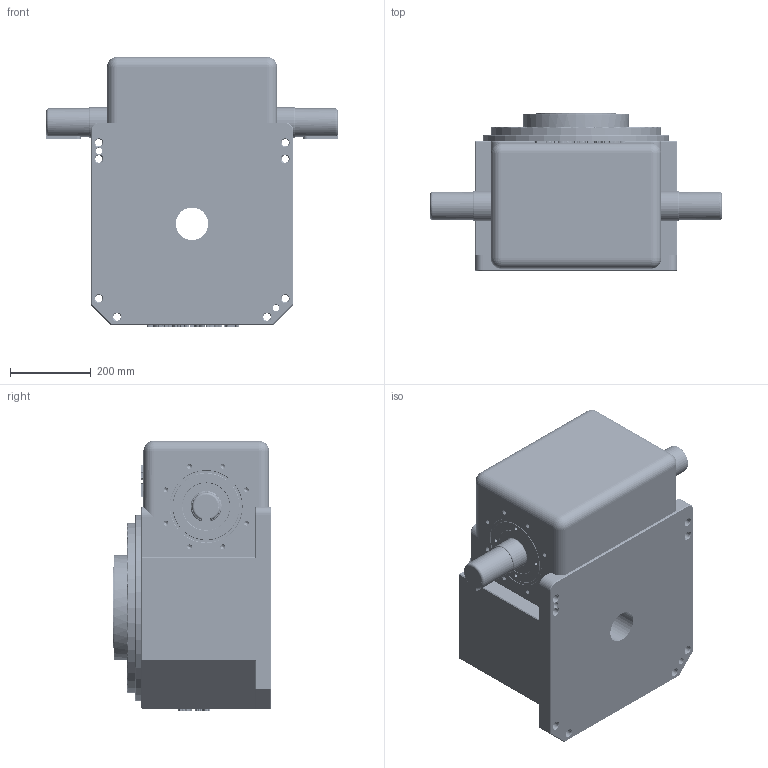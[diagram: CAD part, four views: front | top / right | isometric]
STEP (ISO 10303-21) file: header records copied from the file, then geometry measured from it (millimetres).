
FILE_DESCRIPTION (( 'STEP AP214' ), '1' );
FILE_NAME ('ER-RU250DT英锐凸轮分割器3D固定盘壳体和法兰面加销孔标准图纸(电话15062628977)AA.STEP', '2022-08-26T03:31:08', ( '微软用户' ), ( '微软中国' ), 'SwSTEP 2.0', 'SolidWorks 2017', '' );
FILE_SCHEMA (( 'AUTOMOTIVE_DESIGN' ));
Length unit declared in the file: millimetre
Products named in the file (1): ER-RU250DT英锐凸轮分割器3D固定盘壳体和法兰面加销孔标准图纸(电话15062628977)AA
Bounding box: 720 x 390 x 667 mm (x, y, z)
Volume: 99905851.3 mm3; surface area: 1663318.9 mm2
Topology: 2 solids, 2 shells, 2370 faces, 6376 edges, 4095 vertices
Faces by surface type: cylinder 1238, plane 471, bspline 384, cone 260, torus 13, sphere 4
Entity records: 226961 total; most frequent: CARTESIAN_POINT 176581, ORIENTED_EDGE 12576, DIRECTION 7603, EDGE_CURVE 6288, VERTEX_POINT 4095, LINE 2657, VECTOR 2657, EDGE_LOOP 2565
